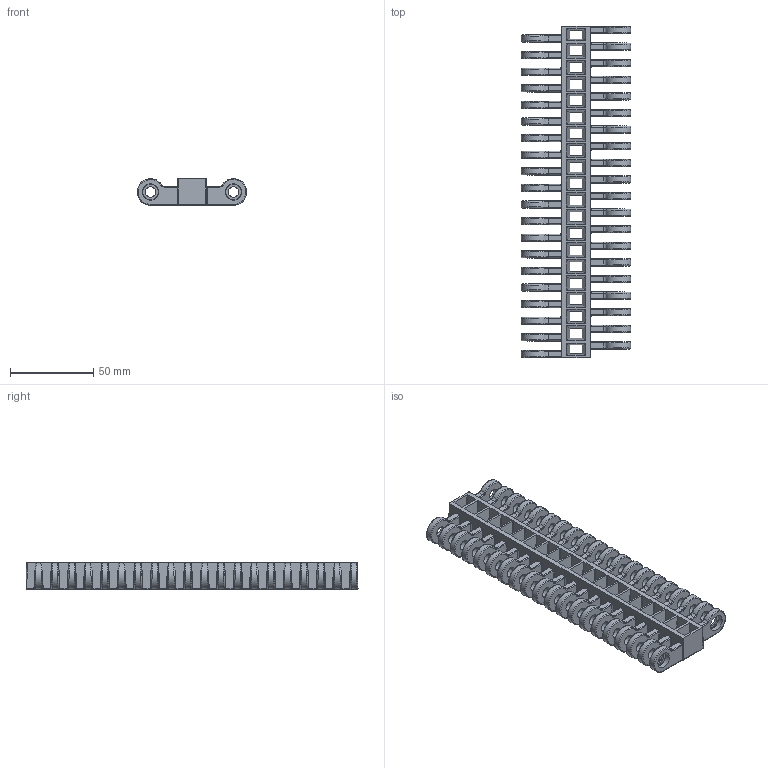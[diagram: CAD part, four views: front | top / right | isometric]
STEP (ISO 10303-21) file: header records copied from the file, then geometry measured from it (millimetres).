
FILE_DESCRIPTION(/* description */ (''),/* implementation_level */ '2;1');
FILE_NAME(/* name */ 'HS-3600B.stp',/* time_stamp */ '2024-05-22T17:52:08+08:00',/* author */ (''),/* organization */ (''),/* preprocessor_version */ 'ST-DEVELOPER v15',/* originating_system */ 'SIEMENS PLM Software NX 8.5',/* authorisation */ '');
FILE_SCHEMA (('AP203_CONFIGURATION_CONTROLLED_3D_DESIGN_OF_MECHANICAL_PARTS_AND_ASSEMBLIES_MIM_LF { 1 0 10303 403 2 1 2}'));
Length unit declared in the file: millimetre
Products named in the file (1): Admi28447921lxu1
Bounding box: 65.99 x 199.98 x 16 mm (x, y, z)
Volume: 79372.7 mm3; surface area: 54240 mm2
Topology: 1 solids, 1 shells, 1236 faces, 3196 edges, 1964 vertices
Faces by surface type: cylinder 612, bspline 396, plane 210, torus 16, sphere 2
Entity records: 45431 total; most frequent: CARTESIAN_POINT 15471, DIRECTION 6484, ORIENTED_EDGE 6388, EDGE_CURVE 3194, AXIS2_PLACEMENT_3D 2651, VERTEX_POINT 1964, EDGE_LOOP 1360, ADVANCED_FACE 1236
